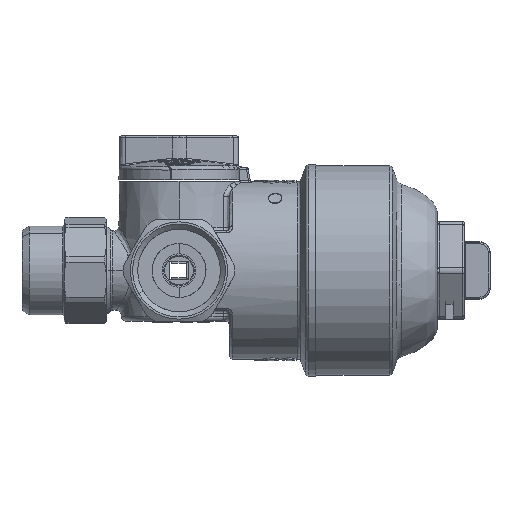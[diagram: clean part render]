
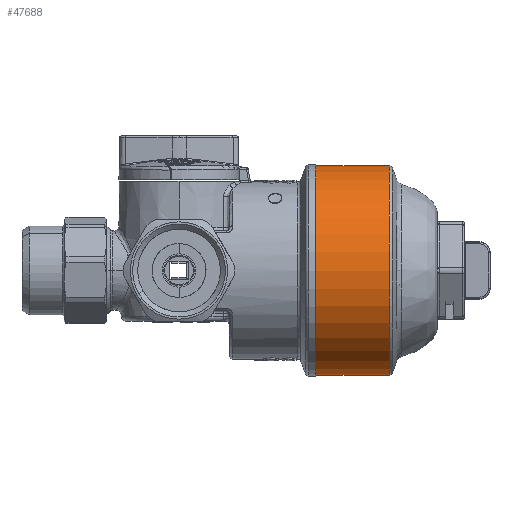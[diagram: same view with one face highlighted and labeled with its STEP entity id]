
A CAD part, left-side view. The second image highlights one B-rep face of the part: STEP entity #47688.
In plain terms, the highlighted cylindrical face has radius 31 mm (diameter 62 mm), a partial arc.
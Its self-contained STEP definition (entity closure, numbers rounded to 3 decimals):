
#1425 = VERTEX_POINT ( 'NONE', #24580 ) ;
#1874 = DIRECTION ( 'NONE',  ( 0., 1., 0. ) ) ;
#2031 = CARTESIAN_POINT ( 'NONE',  ( 0., 24.129, -31. ) ) ;
#5025 = VERTEX_POINT ( 'NONE', #11335 ) ;
#6080 = CIRCLE ( 'NONE', #23989, 31. ) ;
#7438 = DIRECTION ( 'NONE',  ( 0., 0., 1. ) ) ;
#9905 = CARTESIAN_POINT ( 'NONE',  ( 0., 24.129, 31. ) ) ;
#10352 = VECTOR ( 'NONE', #24777, 1000. ) ;
#11335 = CARTESIAN_POINT ( 'NONE',  ( 0., -4.3, 31. ) ) ;
#11439 = VERTEX_POINT ( 'NONE', #12345 ) ;
#12345 = CARTESIAN_POINT ( 'NONE',  ( 0., 17.5, -31. ) ) ;
#13753 = CYLINDRICAL_SURFACE ( 'NONE', #47141, 31. ) ;
#16622 = EDGE_CURVE ( 'NONE', #23390, #11439, #20299, .T. ) ;
#16741 = DIRECTION ( 'NONE',  ( 0., 0., -1. ) ) ;
#20129 = CARTESIAN_POINT ( 'NONE',  ( 0., -4.3, 0. ) ) ;
#20299 = LINE ( 'NONE', #2031, #35981 ) ;
#23390 = VERTEX_POINT ( 'NONE', #42600 ) ;
#23761 = DIRECTION ( 'NONE',  ( 0., 1., 0. ) ) ;
#23989 = AXIS2_PLACEMENT_3D ( 'NONE', #20129, #1874, #16741 ) ;
#24580 = CARTESIAN_POINT ( 'NONE',  ( 0., 17.5, 31. ) ) ;
#24616 = EDGE_CURVE ( 'NONE', #5025, #1425, #31670, .T. ) ;
#24777 = DIRECTION ( 'NONE',  ( 0., 1., 0. ) ) ;
#26621 = ORIENTED_EDGE ( 'NONE', *, *, #16622, .F. ) ;
#28149 = CARTESIAN_POINT ( 'NONE',  ( 0., 24.129, 0. ) ) ;
#28242 = ORIENTED_EDGE ( 'NONE', *, *, #47442, .F. ) ;
#31440 = CIRCLE ( 'NONE', #44807, 31. ) ;
#31670 = LINE ( 'NONE', #9905, #10352 ) ;
#32531 = ORIENTED_EDGE ( 'NONE', *, *, #24616, .T. ) ;
#35072 = EDGE_LOOP ( 'NONE', ( #26621, #39936, #32531, #28242 ) ) ;
#35981 = VECTOR ( 'NONE', #23761, 1000. ) ;
#38446 = CARTESIAN_POINT ( 'NONE',  ( 0., 17.5, 0. ) ) ;
#39936 = ORIENTED_EDGE ( 'NONE', *, *, #44782, .T. ) ;
#42600 = CARTESIAN_POINT ( 'NONE',  ( 0., -4.3, -31. ) ) ;
#43655 = DIRECTION ( 'NONE',  ( 0., 0., 1. ) ) ;
#44782 = EDGE_CURVE ( 'NONE', #23390, #5025, #6080, .T. ) ;
#44807 = AXIS2_PLACEMENT_3D ( 'NONE', #38446, #48317, #7438 ) ;
#46821 = DIRECTION ( 'NONE',  ( 0., 1., 0. ) ) ;
#47141 = AXIS2_PLACEMENT_3D ( 'NONE', #28149, #46821, #43655 ) ;
#47442 = EDGE_CURVE ( 'NONE', #11439, #1425, #31440, .T. ) ;
#47688 = ADVANCED_FACE ( 'NONE', ( #47782 ), #13753, .T. ) ;
#47782 = FACE_OUTER_BOUND ( 'NONE', #35072, .T. ) ;
#48317 = DIRECTION ( 'NONE',  ( 0., 1., 0. ) ) ;
